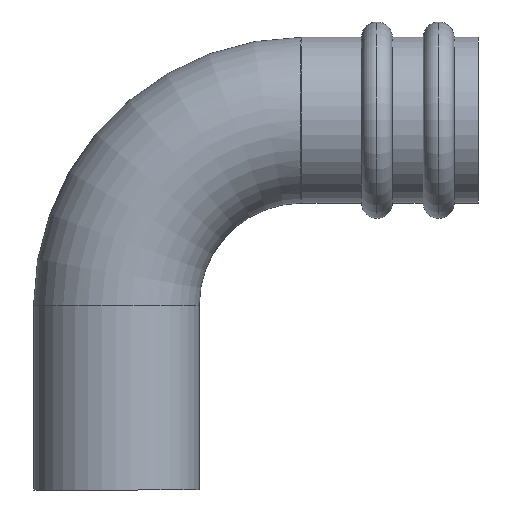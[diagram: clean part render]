
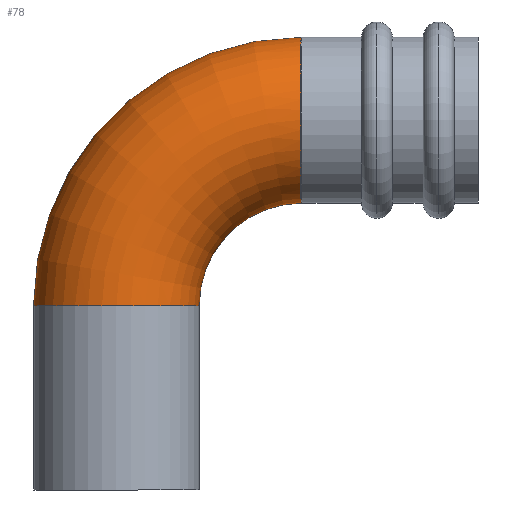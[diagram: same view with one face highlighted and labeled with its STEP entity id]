
A CAD part, front view. The second image highlights one B-rep face of the part: STEP entity #78.
In plain terms, the highlighted toroidal (fillet/blend) face has major radius 42 mm and minor radius 18.768 mm.
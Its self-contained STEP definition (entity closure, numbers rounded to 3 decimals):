
#78=ADVANCED_FACE('',(#202),#203,.T.);
#202=FACE_OUTER_BOUND('',#380,.T.);
#203=TOROIDAL_SURFACE('',#381,42.,18.768);
#380=EDGE_LOOP('',(#552,#553,#554,#555));
#381=AXIS2_PLACEMENT_3D('',#556,#557,#558);
#552=ORIENTED_EDGE('',*,*,#979,.F.);
#553=ORIENTED_EDGE('',*,*,#980,.T.);
#554=ORIENTED_EDGE('',*,*,#981,.F.);
#555=ORIENTED_EDGE('',*,*,#982,.T.);
#556=CARTESIAN_POINT('',(42.,0.,42.));
#557=DIRECTION('',(0.,1.0,0.));
#558=DIRECTION('',(1.0,0.,0.0));
#979=EDGE_CURVE('',#1140,#1141,#1142,.T.);
#980=EDGE_CURVE('',#1140,#1143,#1144,.T.);
#981=EDGE_CURVE('',#1145,#1143,#1146,.T.);
#982=EDGE_CURVE('',#1145,#1141,#1147,.T.);
#1140=VERTEX_POINT('',#1366);
#1141=VERTEX_POINT('',#1367);
#1142=CIRCLE('',#1368,60.768);
#1143=VERTEX_POINT('',#1369);
#1144=CIRCLE('',#1370,18.768);
#1145=VERTEX_POINT('',#1371);
#1146=CIRCLE('',#1372,23.232);
#1147=B_SPLINE_CURVE_WITH_KNOTS('',3,(#1373,#1374,#1375,#1376,#1377,#1378,#1379,#1380,#1381,#1382,#1383,#1384,#1385,#1386,#1387,#1388,#1389,#1390,#1391,#1392),.UNSPECIFIED.,.F.,.F.,(4,2,2,2,2,2,2,2,2,4),(-2.329,-2.309,-2.019,-1.73,-1.442,-1.154,-0.866,-0.577,-0.289,-0.0),.UNSPECIFIED.);
#1366=CARTESIAN_POINT('',(-18.768,0.,42.));
#1367=CARTESIAN_POINT('',(41.793,0.,102.767));
#1368=AXIS2_PLACEMENT_3D('',#1806,#1807,#1808);
#1369=CARTESIAN_POINT('',(18.768,0.,42.));
#1370=AXIS2_PLACEMENT_3D('',#1809,#1810,#1811);
#1371=CARTESIAN_POINT('',(41.796,0.,65.232));
#1372=AXIS2_PLACEMENT_3D('',#1812,#1813,#1814);
#1373=CARTESIAN_POINT('',(41.796,0.,65.232));
#1374=CARTESIAN_POINT('',(41.796,-0.165,65.232));
#1375=CARTESIAN_POINT('',(41.796,-0.331,65.234));
#1376=CARTESIAN_POINT('',(41.796,-2.951,65.303));
#1377=CARTESIAN_POINT('',(41.796,-5.368,65.849));
#1378=CARTESIAN_POINT('',(41.795,-9.85,67.838));
#1379=CARTESIAN_POINT('',(41.795,-11.872,69.259));
#1380=CARTESIAN_POINT('',(41.795,-15.25,72.791));
#1381=CARTESIAN_POINT('',(41.794,-16.576,74.866));
#1382=CARTESIAN_POINT('',(41.794,-18.359,79.406));
#1383=CARTESIAN_POINT('',(41.794,-18.8,81.827));
#1384=CARTESIAN_POINT('',(41.793,-18.731,86.705));
#1385=CARTESIAN_POINT('',(41.793,-18.221,89.115));
#1386=CARTESIAN_POINT('',(41.793,-16.306,93.606));
#1387=CARTESIAN_POINT('',(41.793,-14.92,95.644));
#1388=CARTESIAN_POINT('',(41.793,-11.442,99.075));
#1389=CARTESIAN_POINT('',(41.793,-9.385,100.435));
#1390=CARTESIAN_POINT('',(41.793,-4.864,102.29));
#1391=CARTESIAN_POINT('',(41.793,-2.444,102.767));
#1392=CARTESIAN_POINT('',(41.793,0.,102.767));
#1806=CARTESIAN_POINT('',(42.,0.,42.));
#1807=DIRECTION('',(0.,1.0,0.));
#1808=DIRECTION('',(0.0,0.,1.0));
#1809=CARTESIAN_POINT('',(0.0,0.,42.));
#1810=DIRECTION('',(0.,0.,1.0));
#1811=DIRECTION('',(-1.0,0.,0.));
#1812=CARTESIAN_POINT('',(42.,0.,42.));
#1813=DIRECTION('',(0.,-1.0,0.));
#1814=DIRECTION('',(0.0,0.,1.0));
